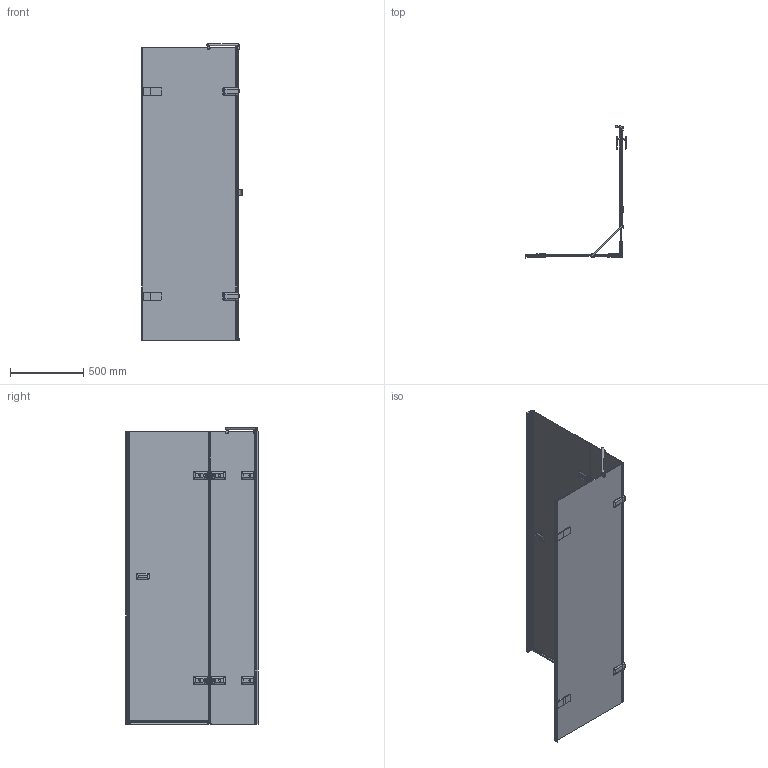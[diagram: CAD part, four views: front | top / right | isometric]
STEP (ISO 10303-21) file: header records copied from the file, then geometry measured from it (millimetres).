
FILE_DESCRIPTION(/* description */ (''),/* implementation_level */ '2;1');
FILE_NAME(/* name */ 'E:\Работа\Сергей\Душевые кабинки\! Работа\36\TREND SQUARE GK-883PGS-2722\TREND SQUARE GK-883PGS-2722 левая модель\TREND SQUARE GK-883PGS-2722 ЛЕВАЯ-3D.stp',/* time_stamp */ '2018-02-17T07:22:08+03:00',/* author */ ('PC'),/* organization */ (''),/* preprocessor_version */ 'ST-DEVELOPER v15.2',/* originating_system */ 'Autodesk Inventor 2014',/* authorisation */ '');
FILE_SCHEMA (('AUTOMOTIVE_DESIGN { 1 0 10303 214 3 1 1 }'));
Products named in the file (1): TREND SQUARE GK-883PGS-2722 ЛЕВАЯ-
3D
Bounding box: 689.86 x 904.6 x 2026 mm (x, y, z)
Volume: 20223973.8 mm3; surface area: 6912297.9 mm2
Topology: 8 solids, 8 shells, 1560 faces, 4096 edges, 2539 vertices
Faces by surface type: plane 914, cylinder 389, bspline 171, torus 45, sphere 21, cone 20
Full cylindrical faces by diameter (mm): 6 x4, 9 x8, 12 x2, 13 x4, 15 x1, 20 x2
Entity records: 66999 total; most frequent: CARTESIAN_POINT 28156, ORIENTED_EDGE 7934, DIRECTION 7450, EDGE_CURVE 3964, VERTEX_POINT 2511, AXIS2_PLACEMENT_3D 2487, LINE 2476, VECTOR 2476
